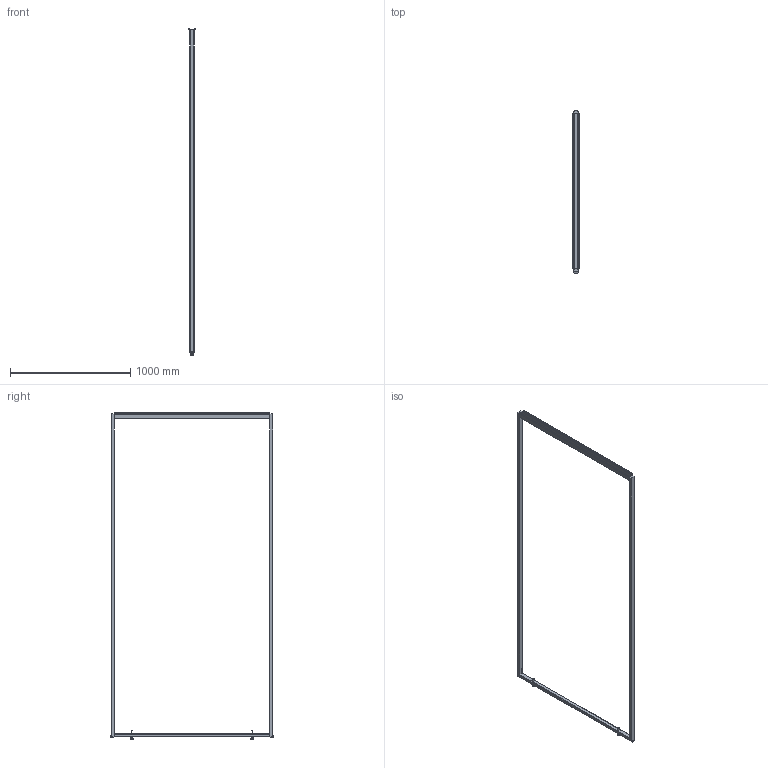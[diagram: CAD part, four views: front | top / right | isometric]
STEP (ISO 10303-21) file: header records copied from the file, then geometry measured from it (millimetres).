
FILE_DESCRIPTION (( 'STEP AP214' ), '1' );
FILE_NAME ('8004838.STEP', '2025-09-16T12:14:19', ( '' ), ( '' ), 'SwSTEP 2.0', 'SolidWorks 2025', '' );
FILE_SCHEMA (( 'AUTOMOTIVE_DESIGN' ));
Length unit declared in the file: millimetre
Products named in the file (1): 8004838
Bounding box: 50.4 x 1356.4 x 2726 mm (x, y, z)
Volume: 6205500.2 mm3; surface area: 1184096.7 mm2
Topology: 8 solids, 8 shells, 130 faces, 318 edges, 208 vertices
Faces by surface type: plane 78, cylinder 40, torus 8, cone 4
Entity records: 3912 total; most frequent: DIRECTION 680, CARTESIAN_POINT 657, ORIENTED_EDGE 636, EDGE_CURVE 318, AXIS2_PLACEMENT_3D 231, VECTOR 218, LINE 218, VERTEX_POINT 208
